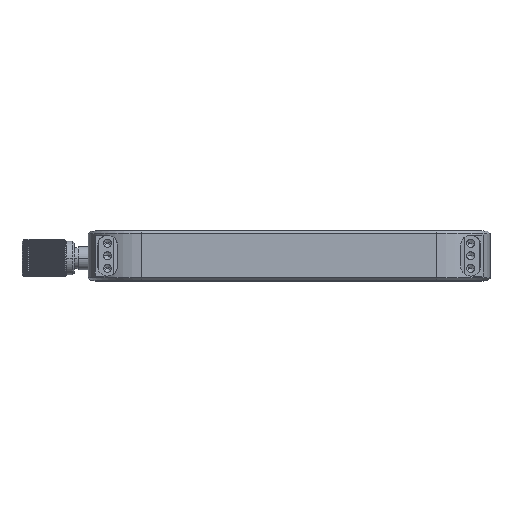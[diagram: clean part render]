
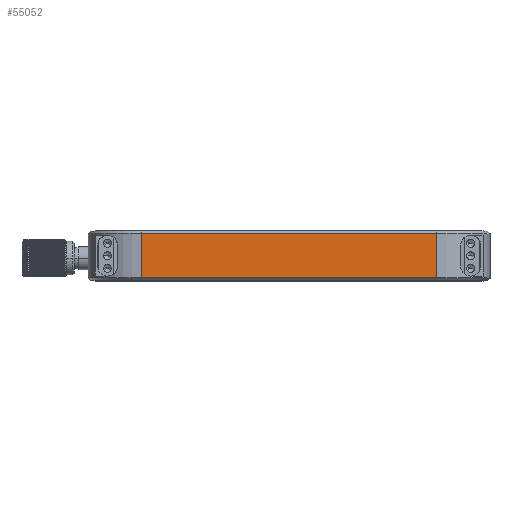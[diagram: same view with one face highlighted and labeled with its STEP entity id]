
A CAD part, top view. The second image highlights one B-rep face of the part: STEP entity #55052.
In plain terms, the highlighted planar face has unit normal (0, 0, 1).
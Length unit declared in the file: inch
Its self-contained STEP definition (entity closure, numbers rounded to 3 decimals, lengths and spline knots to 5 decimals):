
#1932 = CARTESIAN_POINT ( 'NONE',  ( -1.175, -0.177, 1.475 ) ) ;
#2947 = VECTOR ( 'NONE', #16548, 39.37008 ) ;
#6006 = CARTESIAN_POINT ( 'NONE',  ( 1.175, 0.177, 1.475 ) ) ;
#6688 = VERTEX_POINT ( 'NONE', #68209 ) ;
#7144 = CARTESIAN_POINT ( 'NONE',  ( 1.175, -0.177, 1.475 ) ) ;
#10596 = CARTESIAN_POINT ( 'NONE',  ( -1.175, 0.177, 1.475 ) ) ;
#11270 = DIRECTION ( 'NONE',  ( -1., 0., 0. ) ) ;
#16548 = DIRECTION ( 'NONE',  ( -1., 0., 0. ) ) ;
#16957 = VECTOR ( 'NONE', #66777, 39.37008 ) ;
#17439 = AXIS2_PLACEMENT_3D ( 'NONE', #64970, #65683, #11270 ) ;
#17571 = VERTEX_POINT ( 'NONE', #40099 ) ;
#17712 = LINE ( 'NONE', #7144, #55181 ) ;
#20875 = LINE ( 'NONE', #57705, #60093 ) ;
#20913 = ORIENTED_EDGE ( 'NONE', *, *, #61447, .F. ) ;
#22004 = EDGE_CURVE ( 'NONE', #32132, #17571, #37050, .T. ) ;
#23578 = EDGE_CURVE ( 'NONE', #39504, #6688, #17712, .T. ) ;
#24631 = LINE ( 'NONE', #51211, #16957 ) ;
#24660 = ORIENTED_EDGE ( 'NONE', *, *, #22004, .T. ) ;
#32132 = VERTEX_POINT ( 'NONE', #6006 ) ;
#32774 = ORIENTED_EDGE ( 'NONE', *, *, #23578, .T. ) ;
#37027 = FACE_OUTER_BOUND ( 'NONE', #45225, .T. ) ;
#37050 = LINE ( 'NONE', #10596, #2947 ) ;
#38768 = EDGE_CURVE ( 'NONE', #17571, #39504, #20875, .T. ) ;
#39504 = VERTEX_POINT ( 'NONE', #1932 ) ;
#40099 = CARTESIAN_POINT ( 'NONE',  ( -1.175, 0.177, 1.475 ) ) ;
#45225 = EDGE_LOOP ( 'NONE', ( #63738, #32774, #20913, #24660 ) ) ;
#51211 = CARTESIAN_POINT ( 'NONE',  ( 1.175, 0.197, 1.475 ) ) ;
#52751 = DIRECTION ( 'NONE',  ( 0., -1., 0. ) ) ;
#55052 = ADVANCED_FACE ( 'NONE', ( #37027 ), #57217, .F. ) ;
#55181 = VECTOR ( 'NONE', #65454, 39.37008 ) ;
#57217 = PLANE ( 'NONE',  #17439 ) ;
#57705 = CARTESIAN_POINT ( 'NONE',  ( -1.175, 0.197, 1.475 ) ) ;
#60093 = VECTOR ( 'NONE', #52751, 39.37008 ) ;
#61447 = EDGE_CURVE ( 'NONE', #32132, #6688, #24631, .T. ) ;
#63738 = ORIENTED_EDGE ( 'NONE', *, *, #38768, .T. ) ;
#64970 = CARTESIAN_POINT ( 'NONE',  ( -1.175, 0.197, 1.475 ) ) ;
#65454 = DIRECTION ( 'NONE',  ( 1., 0., 0. ) ) ;
#65683 = DIRECTION ( 'NONE',  ( 0., 0., -1. ) ) ;
#66777 = DIRECTION ( 'NONE',  ( 0., -1., 0. ) ) ;
#68209 = CARTESIAN_POINT ( 'NONE',  ( 1.175, -0.177, 1.475 ) ) ;
